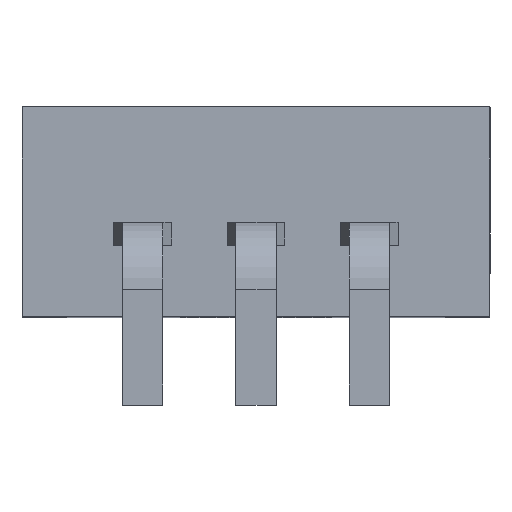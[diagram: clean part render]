
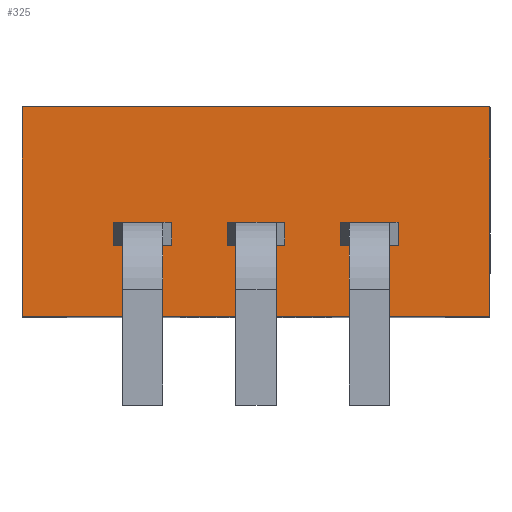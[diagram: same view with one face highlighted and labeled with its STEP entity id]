
A CAD part, top view. The second image highlights one B-rep face of the part: STEP entity #325.
In plain terms, the highlighted planar face has unit normal (0, 0, 1).
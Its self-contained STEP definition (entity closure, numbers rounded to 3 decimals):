
#1 = ORIENTED_EDGE ( 'NONE', *, *, #103, .F. ) ;
#2 = VERTEX_POINT ( 'NONE', #497 ) ;
#3 = ORIENTED_EDGE ( 'NONE', *, *, #176, .F. ) ;
#4 = VERTEX_POINT ( 'NONE', #496 ) ;
#5 = EDGE_CURVE ( 'NONE', #175, #93, #494, .T. ) ;
#7 = ORIENTED_EDGE ( 'NONE', *, *, #10, .F. ) ;
#8 = EDGE_CURVE ( 'NONE', #302, #12, #656, .T. ) ;
#9 = EDGE_LOOP ( 'NONE', ( #13, #1, #7, #121 ) ) ;
#10 = EDGE_CURVE ( 'NONE', #319, #101, #603, .T. ) ;
#11 = ORIENTED_EDGE ( 'NONE', *, *, #8, .F. ) ;
#12 = VERTEX_POINT ( 'NONE', #702 ) ;
#13 = ORIENTED_EDGE ( 'NONE', *, *, #333, .T. ) ;
#14 = EDGE_CURVE ( 'NONE', #305, #12, #597, .T. ) ;
#15 = ORIENTED_EDGE ( 'NONE', *, *, #295, .F. ) ;
#70 = VERTEX_POINT ( 'NONE', #745 ) ;
#78 = VERTEX_POINT ( 'NONE', #671 ) ;
#91 = ORIENTED_EDGE ( 'NONE', *, *, #120, .T. ) ;
#92 = VERTEX_POINT ( 'NONE', #717 ) ;
#93 = VERTEX_POINT ( 'NONE', #716 ) ;
#101 = VERTEX_POINT ( 'NONE', #690 ) ;
#103 = EDGE_CURVE ( 'NONE', #101, #70, #961, .T. ) ;
#116 = VERTEX_POINT ( 'NONE', #811 ) ;
#120 = EDGE_CURVE ( 'NONE', #137, #175, #805, .T. ) ;
#121 = ORIENTED_EDGE ( 'NONE', *, *, #331, .T. ) ;
#137 = VERTEX_POINT ( 'NONE', #951 ) ;
#138 = ORIENTED_EDGE ( 'NONE', *, *, #5, .T. ) ;
#139 = EDGE_LOOP ( 'NONE', ( #3, #91, #138, #170 ) ) ;
#140 = ORIENTED_EDGE ( 'NONE', *, *, #141, .T. ) ;
#141 = EDGE_CURVE ( 'NONE', #4, #142, #950, .T. ) ;
#142 = VERTEX_POINT ( 'NONE', #946 ) ;
#170 = ORIENTED_EDGE ( 'NONE', *, *, #171, .F. ) ;
#171 = EDGE_CURVE ( 'NONE', #2, #93, #887, .T. ) ;
#172 = EDGE_LOOP ( 'NONE', ( #15, #200, #140, #173 ) ) ;
#173 = ORIENTED_EDGE ( 'NONE', *, *, #174, .F. ) ;
#174 = EDGE_CURVE ( 'NONE', #92, #142, #883, .T. ) ;
#175 = VERTEX_POINT ( 'NONE', #879 ) ;
#176 = EDGE_CURVE ( 'NONE', #137, #2, #878, .T. ) ;
#200 = ORIENTED_EDGE ( 'NONE', *, *, #201, .T. ) ;
#201 = EDGE_CURVE ( 'NONE', #116, #4, #1210, .T. ) ;
#295 = EDGE_CURVE ( 'NONE', #116, #92, #1414, .T. ) ;
#301 = EDGE_CURVE ( 'NONE', #328, #302, #1386, .T. ) ;
#302 = VERTEX_POINT ( 'NONE', #1382 ) ;
#303 = ORIENTED_EDGE ( 'NONE', *, *, #304, .T. ) ;
#304 = EDGE_CURVE ( 'NONE', #328, #305, #1381, .T. ) ;
#305 = VERTEX_POINT ( 'NONE', #1376 ) ;
#306 = ORIENTED_EDGE ( 'NONE', *, *, #14, .T. ) ;
#319 = VERTEX_POINT ( 'NONE', #1328 ) ;
#325 = ADVANCED_FACE ( 'NONE', ( #1307, #1306, #1305, #1304 ), #1301, .F. ) ;
#326 = EDGE_LOOP ( 'NONE', ( #327, #303, #306, #11 ) ) ;
#327 = ORIENTED_EDGE ( 'NONE', *, *, #301, .F. ) ;
#328 = VERTEX_POINT ( 'NONE', #1289 ) ;
#331 = EDGE_CURVE ( 'NONE', #319, #78, #1288, .T. ) ;
#333 = EDGE_CURVE ( 'NONE', #78, #70, #1284, .T. ) ;
#494 = LINE ( 'NONE', #708, #585 ) ;
#496 = CARTESIAN_POINT ( 'NONE',  ( 3.19, 1.59, 12.75 ) ) ;
#497 = CARTESIAN_POINT ( 'NONE',  ( -0.65, 2.1, 12.75 ) ) ;
#585 = VECTOR ( 'NONE', #689, 1000. ) ;
#597 = LINE ( 'NONE', #685, #684 ) ;
#601 = VECTOR ( 'NONE', #703, 1000. ) ;
#602 = CARTESIAN_POINT ( 'NONE',  ( -5.25, 4.7, 12.75 ) ) ;
#603 = LINE ( 'NONE', #602, #601 ) ;
#604 = VECTOR ( 'NONE', #791, 1000. ) ;
#655 = CARTESIAN_POINT ( 'NONE',  ( -3.19, 2.1, 12.75 ) ) ;
#656 = LINE ( 'NONE', #655, #604 ) ;
#671 = CARTESIAN_POINT ( 'NONE',  ( -5.25, 0., 12.75 ) ) ;
#683 = DIRECTION ( 'NONE',  ( -1., 0., 0. ) ) ;
#684 = VECTOR ( 'NONE', #683, 1000. ) ;
#685 = CARTESIAN_POINT ( 'NONE',  ( -3.19, 1.59, 12.75 ) ) ;
#689 = DIRECTION ( 'NONE',  ( -1., 0., 0. ) ) ;
#690 = CARTESIAN_POINT ( 'NONE',  ( 5.25, 4.7, 12.75 ) ) ;
#702 = CARTESIAN_POINT ( 'NONE',  ( -3.19, 1.59, 12.75 ) ) ;
#703 = DIRECTION ( 'NONE',  ( 1., 0., 0. ) ) ;
#708 = CARTESIAN_POINT ( 'NONE',  ( -0.65, 1.59, 12.75 ) ) ;
#716 = CARTESIAN_POINT ( 'NONE',  ( -0.65, 1.59, 12.75 ) ) ;
#717 = CARTESIAN_POINT ( 'NONE',  ( 1.89, 2.1, 12.75 ) ) ;
#745 = CARTESIAN_POINT ( 'NONE',  ( 5.25, 0., 12.75 ) ) ;
#791 = DIRECTION ( 'NONE',  ( 0., -1., 0. ) ) ;
#805 = LINE ( 'NONE', #1028, #1027 ) ;
#811 = CARTESIAN_POINT ( 'NONE',  ( 3.19, 2.1, 12.75 ) ) ;
#875 = DIRECTION ( 'NONE',  ( -1., 0., 0. ) ) ;
#876 = VECTOR ( 'NONE', #875, 1000. ) ;
#877 = CARTESIAN_POINT ( 'NONE',  ( -0.65, 2.1, 12.75 ) ) ;
#878 = LINE ( 'NONE', #877, #876 ) ;
#879 = CARTESIAN_POINT ( 'NONE',  ( 0.65, 1.59, 12.75 ) ) ;
#880 = DIRECTION ( 'NONE',  ( 0., -1., 0. ) ) ;
#881 = VECTOR ( 'NONE', #880, 1000. ) ;
#882 = CARTESIAN_POINT ( 'NONE',  ( 1.89, 2.1, 12.75 ) ) ;
#883 = LINE ( 'NONE', #882, #881 ) ;
#884 = DIRECTION ( 'NONE',  ( 0., -1., 0. ) ) ;
#885 = VECTOR ( 'NONE', #884, 1000. ) ;
#886 = CARTESIAN_POINT ( 'NONE',  ( -0.65, 2.1, 12.75 ) ) ;
#887 = LINE ( 'NONE', #886, #885 ) ;
#946 = CARTESIAN_POINT ( 'NONE',  ( 1.89, 1.59, 12.75 ) ) ;
#947 = DIRECTION ( 'NONE',  ( -1., 0., 0. ) ) ;
#948 = VECTOR ( 'NONE', #947, 1000. ) ;
#949 = CARTESIAN_POINT ( 'NONE',  ( 1.89, 1.59, 12.75 ) ) ;
#950 = LINE ( 'NONE', #949, #948 ) ;
#951 = CARTESIAN_POINT ( 'NONE',  ( 0.65, 2.1, 12.75 ) ) ;
#961 = LINE ( 'NONE', #974, #973 ) ;
#972 = DIRECTION ( 'NONE',  ( 0., -1., 0. ) ) ;
#973 = VECTOR ( 'NONE', #972, 1000. ) ;
#974 = CARTESIAN_POINT ( 'NONE',  ( 5.25, 4.7, 12.75 ) ) ;
#1026 = DIRECTION ( 'NONE',  ( 0., -1., 0. ) ) ;
#1027 = VECTOR ( 'NONE', #1026, 1000. ) ;
#1028 = CARTESIAN_POINT ( 'NONE',  ( 0.65, 2.1, 12.75 ) ) ;
#1207 = DIRECTION ( 'NONE',  ( 0., -1., 0. ) ) ;
#1208 = VECTOR ( 'NONE', #1207, 1000. ) ;
#1209 = CARTESIAN_POINT ( 'NONE',  ( 3.19, 2.1, 12.75 ) ) ;
#1210 = LINE ( 'NONE', #1209, #1208 ) ;
#1281 = DIRECTION ( 'NONE',  ( 1., 0., 0. ) ) ;
#1282 = VECTOR ( 'NONE', #1281, 1000. ) ;
#1283 = CARTESIAN_POINT ( 'NONE',  ( -5.25, 0., 12.75 ) ) ;
#1284 = LINE ( 'NONE', #1283, #1282 ) ;
#1285 = DIRECTION ( 'NONE',  ( 0., -1., 0. ) ) ;
#1286 = VECTOR ( 'NONE', #1285, 1000. ) ;
#1287 = CARTESIAN_POINT ( 'NONE',  ( -5.25, 4.7, 12.75 ) ) ;
#1288 = LINE ( 'NONE', #1287, #1286 ) ;
#1289 = CARTESIAN_POINT ( 'NONE',  ( -1.89, 2.1, 12.75 ) ) ;
#1290 = DIRECTION ( 'NONE',  ( -1., 0., 0. ) ) ;
#1291 = DIRECTION ( 'NONE',  ( 0., 0., -1. ) ) ;
#1301 = PLANE ( 'NONE',  #1303 ) ;
#1302 = CARTESIAN_POINT ( 'NONE',  ( -5.25, 4.7, 12.75 ) ) ;
#1303 = AXIS2_PLACEMENT_3D ( 'NONE', #1302, #1291, #1290 ) ;
#1304 = FACE_BOUND ( 'NONE', #172, .T. ) ;
#1305 = FACE_BOUND ( 'NONE', #139, .T. ) ;
#1306 = FACE_OUTER_BOUND ( 'NONE', #9, .T. ) ;
#1307 = FACE_BOUND ( 'NONE', #326, .T. ) ;
#1328 = CARTESIAN_POINT ( 'NONE',  ( -5.25, 4.7, 12.75 ) ) ;
#1376 = CARTESIAN_POINT ( 'NONE',  ( -1.89, 1.59, 12.75 ) ) ;
#1377 = DIRECTION ( 'NONE',  ( 0., -1., 0. ) ) ;
#1379 = VECTOR ( 'NONE', #1377, 1000. ) ;
#1380 = CARTESIAN_POINT ( 'NONE',  ( -1.89, 2.1, 12.75 ) ) ;
#1381 = LINE ( 'NONE', #1380, #1379 ) ;
#1382 = CARTESIAN_POINT ( 'NONE',  ( -3.19, 2.1, 12.75 ) ) ;
#1383 = DIRECTION ( 'NONE',  ( -1., 0., 0. ) ) ;
#1384 = VECTOR ( 'NONE', #1383, 1000. ) ;
#1385 = CARTESIAN_POINT ( 'NONE',  ( -3.19, 2.1, 12.75 ) ) ;
#1386 = LINE ( 'NONE', #1385, #1384 ) ;
#1411 = DIRECTION ( 'NONE',  ( -1., 0., 0. ) ) ;
#1412 = VECTOR ( 'NONE', #1411, 1000. ) ;
#1413 = CARTESIAN_POINT ( 'NONE',  ( 1.89, 2.1, 12.75 ) ) ;
#1414 = LINE ( 'NONE', #1413, #1412 ) ;
